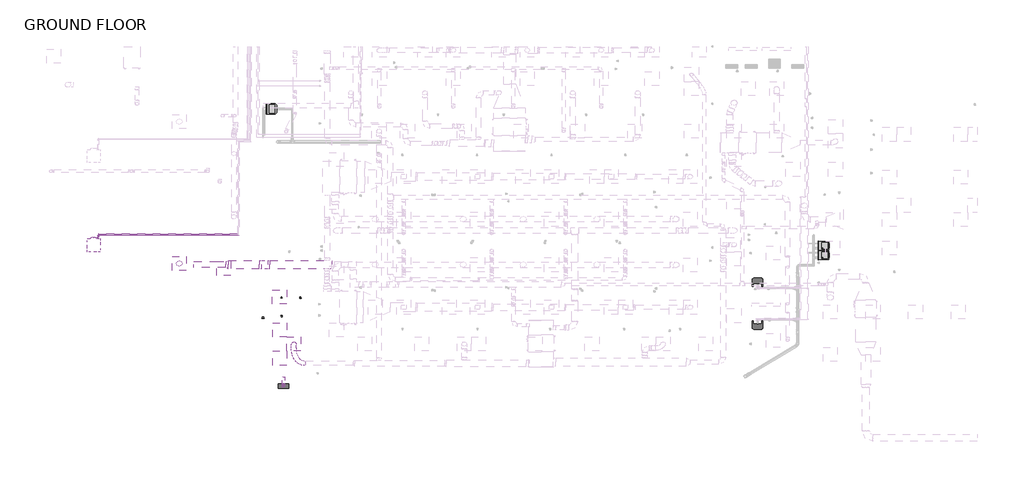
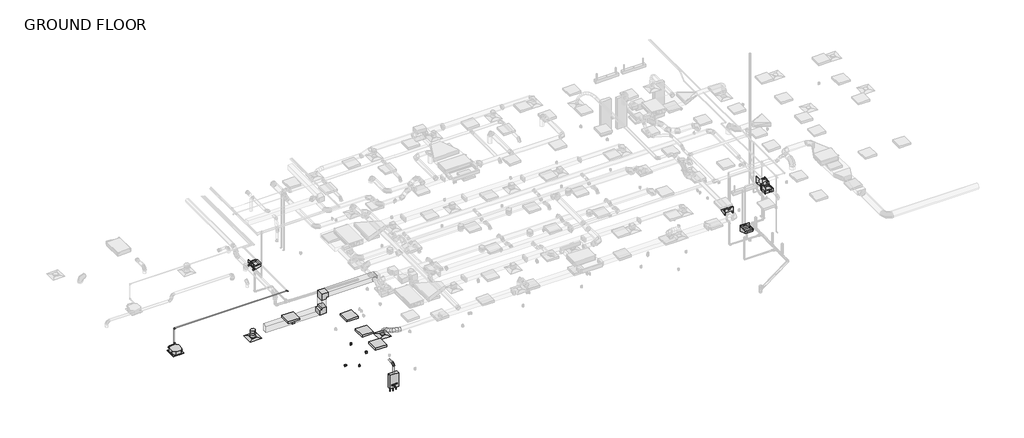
# One storey, part 1 of 21: 9 pipe segments, 8 duct segments, 6 pipe fittings, 6 proxies, 5 duct fittings, 5 flow terminals, 4 light fixtures, 2 air terminals.
"""IFC4 building model written with IfcOpenShell, lengths in millimetres."""

from ifc_helpers import new_model, si_unit, point, frame, frame_2d, origin, place, context, project, spatial, polyline, circle_curve, ellipse_curve, trimmed, segment, composite_curve, outline, extrude, transform, mapped, element, save
from ifc_brep_helpers import plane_surface, cylinder_surface, advanced_brep
from components import air_terminal_a1f6e78c, air_terminal_e9020785, mechanical_equipment_2d84379e, duplex_receptacle_countertop_10251bba, water_heater_tankless_0_6_gallon_c20ab9af, rectangular_elbow_mitered_transition_standard_eba0128a, rectangular_transition_angle_45_degree_15636467, round_elbow_1_d_2e2cf16c, round_takeoff_standard_c386a54e, flow_terminal_3ae34a69, drinking_fountain_handicap_standard_fbed446a, troffer_corner_insert_2x2_3lamp_e67c7f8f, elbow_generic_standard_c06ac706, elbow_generic_standard_a088f956

model = new_model("IFC4")

# Units and contexts
model_context = context("Model", 3, world=origin())
ifc_project = project(units=[si_unit("LENGTHUNIT", "METRE", prefix="MILLI")], contexts=[model_context])

# Site, building, storey
site = spatial("IfcSite", under=ifc_project)
building = spatial("IfcBuilding", under=site)
storey = spatial("IfcBuildingStorey", under=building, Name="GROUND FLOOR", Elevation=30480.0)

# Air terminals
placement = place(None, origin())
air_terminal_shape = air_terminal_a1f6e78c(model_context)
element("IfcAirTerminal", 1, ObjectType="Supply Diffuser - Rectangular Face Round Neck - Hosted : 24\"x24\" Face 10\" Neck - Hosted", at=placement, inside=storey, context=model_context, shape_type="MappedRepresentation", body=[
    mapped(air_terminal_shape, transform((-13605.5079607, -2346.9179995, 32715.2), x_axis=(-1.0, 0.0, 0.0), y_axis=(0.0, 1.0, 0.0), z_axis=(0.0, 0.0, -1.0))),
])
air_terminal_2_shape = air_terminal_e9020785(model_context)
element("IfcAirTerminal", 2, ObjectType="Supply Diffuser - Rectangular Face Round Neck - Hosted : 24\"x24\" Face 8\" Neck - Hosted", at=placement, inside=storey, context=model_context, shape_type="MappedRepresentation", body=[
    mapped(air_terminal_2_shape, transform((-8685.8454607, -5809.2554995, 33223.2), x_axis=(0.0, -1.0, 0.0), y_axis=(-1.0, 0.0, 0.0), z_axis=(0.0, 0.0, -1.0))),
])

# Proxies
mechanical_equipment_shape = mechanical_equipment_2d84379e(model_context)
element("IfcBuildingElementProxy", 3, Name="PLFY-P-NCMU-E_4-way_24x24 : PLFY-P12NCMU-E", ObjectType="PLFY-P-NCMU-E_4-way_24x24 : PLFY-P12NCMU-E", at=placement, inside=storey, context=model_context, shape_type="MappedRepresentation", body=[
    mapped(mechanical_equipment_shape, transform((-17276.6017107, -1632.1077908, 32715.2), x_axis=(1.0, 0.0, 0.0), y_axis=(0.0, -1.0, 0.0), z_axis=(0.0, 0.0, -1.0))),
])
duplex_receptacle_countertop_shape = duplex_receptacle_countertop_10251bba(model_context)
element("IfcBuildingElementProxy", 4, Name="Duplex Receptacle : Countertop", ObjectType="Duplex Receptacle : Countertop", at=placement, inside=storey, context=model_context, shape_type="MappedRepresentation", body=[
    mapped(duplex_receptacle_countertop_shape, transform((-9216.8506869, -3834.4054995, 31699.2), x_axis=(1.0, 0.0, 0.0), y_axis=(0.0, 0.0, 1.0), z_axis=(0.0, -1.0, 0.0))),
])
element("IfcBuildingElementProxy", 5, Name="Duplex Receptacle : Countertop", ObjectType="Duplex Receptacle : Countertop", at=placement, inside=storey, context=model_context, shape_type="MappedRepresentation", body=[
    mapped(duplex_receptacle_countertop_shape, transform((-10013.3077558, -4704.3554995, 31283.4921716), x_axis=(0.0, 0.0, 1.0), y_axis=(-1.0, 0.0, 0.0), z_axis=(0.0, -1.0, 0.0))),
])
element("IfcBuildingElementProxy", 6, Name="Duplex Receptacle : Standard", ObjectType="Duplex Receptacle : Standard", at=placement, inside=storey, context=model_context, shape_type="MappedRepresentation", body=[
    mapped(duplex_receptacle_countertop_shape, transform((-8405.3543873, -3834.4054995, 30937.2), x_axis=(1.0, 0.0, 0.0), y_axis=(0.0, 0.0, 1.0), z_axis=(0.0, -1.0, 0.0))),
])
element("IfcBuildingElementProxy", 7, Name="Duplex Receptacle : Standard", ObjectType="Duplex Receptacle : Standard", at=placement, inside=storey, context=model_context, shape_type="MappedRepresentation", body=[
    mapped(duplex_receptacle_countertop_shape, transform((-9209.1166922, -4580.5304995, 30937.2), x_axis=(-1.0, 0.0, 0.0), y_axis=(0.0, 0.0, 1.0), z_axis=(0.0, 1.0, 0.0))),
])
water_heater_tankless_0_6_gallon_shape = water_heater_tankless_0_6_gallon_c20ab9af(model_context)
element("IfcBuildingElementProxy", 8, Name="Water Heater - Tankless : 0.6 Gallon", ObjectType="Water Heater - Tankless : 0.6 Gallon", at=placement, inside=storey, context=model_context, shape_type="MappedRepresentation", body=[
    mapped(water_heater_tankless_0_6_gallon_shape, transform((-9133.5422488, -7501.5304995, 31553.6777721), x_axis=(1.0, 0.0, 0.0), y_axis=(0.0, 0.0, 1.0), z_axis=(0.0, -1.0, 0.0))),
])

# Duct fittings
rectangular_elbow_mitered_transition_standard_shape = rectangular_elbow_mitered_transition_standard_eba0128a(model_context)
element("IfcDuctFitting", 9, ObjectType="Rectangular Elbow - Mitered - Transition : Standard", at=placement, inside=storey, context=model_context, shape_type="MappedRepresentation", body=[
    mapped(rectangular_elbow_mitered_transition_standard_shape, transform((-9938.144811, -2399.3054995, 33020.0), x_axis=(1.0, 0.0, 0.0), y_axis=(0.0, 0.0, 1.0), z_axis=(0.0, -1.0, 0.0))),
])
element("IfcDuctFitting", 10, ObjectType="Rectangular Elbow - Mitered - Transition : Standard", at=placement, inside=storey, context=model_context, shape_type="MappedRepresentation", body=[
    mapped(rectangular_elbow_mitered_transition_standard_shape, transform((-9938.144811, -2399.3054995, 33909.0), x_axis=(0.0, 0.0, 1.0), y_axis=(1.0, 0.0, 0.0), z_axis=(0.0, 1.0, 0.0))),
])
rectangular_transition_angle_45_degree_shape = rectangular_transition_angle_45_degree_15636467(model_context)
element("IfcDuctFitting", 11, ObjectType="Rectangular Transition - Angle : 45 Degree", at=placement, inside=storey, context=model_context, shape_type="MappedRepresentation", body=[
    mapped(rectangular_transition_angle_45_degree_shape, transform((-11614.544811, -2399.3054995, 33020.0), x_axis=(1.0, 0.0, 0.0), y_axis=(0.0, 1.0, 0.0), z_axis=(0.0, 0.0, 1.0))),
])
round_elbow_1_d_shape = round_elbow_1_d_2e2cf16c(model_context)
element("IfcDuctFitting", 12, ObjectType="Round Elbow : 1 D", at=placement, inside=storey, context=model_context, shape_type="MappedRepresentation", body=[
    mapped(round_elbow_1_d_shape, transform((-9133.5422488, -7615.8304995, 32839.0961523), x_axis=(0.0, -1.0, 0.0), y_axis=(0.0, 0.0, -1.0), z_axis=(1.0, 0.0, 0.0))),
])
round_takeoff_standard_shape = round_takeoff_standard_c386a54e(model_context)
element("IfcDuctFitting", 13, ObjectType="Round Takeoff : Standard", at=placement, inside=storey, context=model_context, shape_type="MappedRepresentation", body=[
    mapped(round_takeoff_standard_shape, transform((-13605.5079607, -2346.9179995, 32998.9347748), x_axis=(0.0, 0.0, -1.0), y_axis=(1.0, 0.0, 0.0), z_axis=(0.0, -1.0, 0.0))),
])

# Duct segments
element("IfcDuctSegment", 14, ObjectType="Flex - Round", at=placement, inside=storey, context=model_context, shape_type="AdvancedBrep", body=[
    advanced_brep(
    [(-8198.0792966, -6736.8850038, 33877.25), (-8198.0792966, -6635.2850038, 33775.65), (-8198.0792966, -6533.6850038, 33877.25), (-8198.0792966, -6635.2850038, 33978.85), (-8218.4985021, -6736.8850038, 33877.25), (-8209.2197661, -6635.2850038, 33775.65), (-8203.7506501, -6533.6850038, 33877.25), (-8213.0293861, -6635.2850038, 33978.85), (-8780.4464452, -5846.3123979, 33277.175), (-8722.9023592, -5714.6545149, 33277.175), (-8591.2444762, -5772.198601, 33277.175), (-8648.7885622, -5903.856484, 33277.175), (-8339.1813775, -6719.2681674, 33872.6992727), (-8305.7046683, -6621.2004973, 33772.0117333), (-8286.7257752, -6521.5726042, 33874.121162), (-8320.2024844, -6619.6402743, 33974.8087013), (-8470.9946788, -6667.3379246, 33857.9603557), (-8407.576349, -6581.0662995, 33760.620787), (-8373.445886, -6487.4076424, 33864.4244129), (-8436.8642158, -6573.6792675, 33961.7639816), (-8586.4194049, -6583.3695154, 33831.5875842), (-8494.3723968, -6517.9244901, 33740.7892274), (-8447.4747299, -6433.5536332, 33847.5099626), (-8539.5217381, -6498.9986586, 33938.3083194), (-8672.9590499, -6473.1112187, 33793.1745119), (-8559.9397444, -6434.3865455, 33711.6853032), (-8505.3268469, -6359.8454977, 33821.8306621), (-8618.3461523, -6398.570171, 33903.3198707), (-8729.5028063, -6349.7598134, 33744.3839657), (-8605.1998762, -6335.6506069, 33672.6311849), (-8548.0458512, -6266.6530828, 33784.969235), (-8672.3487813, -6280.7622894, 33856.7220158), (-8763.1059458, -6224.3988891, 33686.2556065), (-8633.5596559, -6229.8507249, 33623.5730468), (-8576.5078643, -6160.4718052, 33735.7342483), (-8706.0541542, -6155.0199695, 33798.4168081), (-8780.2289374, -6105.1031652, 33618.9182516), (-8648.4220926, -6126.3042664, 33565.1254814), (-8592.2442877, -6050.8362895, 33673.8496695), (-8724.0511326, -6029.6351883, 33727.6424397), (-8786.0904012, -6000.0543024, 33542.8019622), (-8653.5396732, -6034.5872396, 33498.6691717), (-8598.028372, -5947.1742189, 33598.7382218), (-8730.5790999, -5912.6412817, 33642.8710123), (-8785.3303968, -5917.6725877, 33459.215254), (-8652.8864253, -5963.7775382, 33426.8237401), (-8597.211928, -5858.6746506, 33508.9441744), (-8729.6558995, -5812.5697001, 33541.3356883), (-8782.2172351, -5864.8720883, 33369.7155214), (-8650.2671566, -5919.3536663, 33351.5228491), (-8593.5185156, -5796.0328612, 33402.7629174), (-8725.4685941, -5741.5512832, 33420.9555897), (-8780.4464452, -5846.3123979, 33291.2670205), (-8648.7885622, -5903.856484, 33286.0190236), (-8591.2444762, -5772.198601, 33302.0197505), (-8722.9023592, -5714.6545149, 33307.2677474)],
    [
        (0, 1, circle_curve(frame((-8198.0792966, -6635.2850038, 33877.25), z_axis=(1.0, 0.0, 0.0), x_axis=(0.0, -1.0, 0.0)), 101.6)),
        (1, 2, circle_curve(frame((-8198.0792966, -6635.2850038, 33877.25), z_axis=(1.0, 0.0, 0.0), x_axis=(0.0, -1.0, 0.0)), 101.6)),
        (2, 3, circle_curve(frame((-8198.0792966, -6635.2850038, 33877.25), z_axis=(1.0, 0.0, 0.0), x_axis=(0.0, -1.0, 0.0)), 101.6)),
        (3, 0, circle_curve(frame((-8198.0792966, -6635.2850038, 33877.25), z_axis=(1.0, 0.0, 0.0), x_axis=(0.0, -1.0, 0.0)), 101.6)),
        (0, 4),
        (4, 5, ellipse_curve(frame((-8211.1245761, -6635.2850038, 33877.25), z_axis=(0.9972022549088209, -0.07237495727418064, 0.01869567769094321), x_axis=(0.07475067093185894, 0.9655093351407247, -0.24940741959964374)), 101.8850484, 101.6)),
        (5, 1),
        (5, 6, ellipse_curve(frame((-8211.1245761, -6635.2850038, 33877.25), z_axis=(0.9972022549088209, -0.07237495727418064, 0.01869567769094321), x_axis=(0.07475067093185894, 0.9655093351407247, -0.24940741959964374)), 101.8850484, 101.6)),
        (6, 2),
        (6, 7, ellipse_curve(frame((-8211.1245761, -6635.2850038, 33877.25), z_axis=(0.9972022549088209, -0.07237495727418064, 0.01869567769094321), x_axis=(0.07475067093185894, 0.9655093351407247, -0.24940741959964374)), 101.8850484, 101.6)),
        (7, 3),
        (7, 4, ellipse_curve(frame((-8211.1245761, -6635.2850038, 33877.25), z_axis=(0.9972022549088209, -0.07237495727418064, 0.01869567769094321), x_axis=(0.07475067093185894, 0.9655093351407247, -0.24940741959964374)), 101.8850484, 101.6)),
        (8, 9, circle_curve(frame((-8685.8454607, -5809.2554995, 33277.175), z_axis=(0.0, 0.0, -1.0), x_axis=(-0.9311120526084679, -0.3647332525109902, 0.0)), 101.6)),
        (9, 10, circle_curve(frame((-8685.8454607, -5809.2554995, 33277.175), z_axis=(0.0, 0.0, -1.0), x_axis=(-0.9311120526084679, -0.3647332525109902, 0.0)), 101.6)),
        (10, 11, circle_curve(frame((-8685.8454607, -5809.2554995, 33277.175), z_axis=(0.0, 0.0, -1.0), x_axis=(-0.9311120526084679, -0.3647332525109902, 0.0)), 101.6)),
        (11, 8, circle_curve(frame((-8685.8454607, -5809.2554995, 33277.175), z_axis=(0.0, 0.0, -1.0), x_axis=(-0.9311120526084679, -0.3647332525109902, 0.0)), 101.6)),
        (4, 12),
        (12, 13, ellipse_curve(frame((-8312.9535763, -6620.4203858, 33873.4102173), z_axis=(0.9639965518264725, -0.25629211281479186, 0.07088724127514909), x_axis=(0.26585434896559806, 0.9232205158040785, -0.2774623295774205)), 102.330517, 101.6)),
        (13, 5),
        (13, 14, ellipse_curve(frame((-8312.9535763, -6620.4203858, 33873.4102173), z_axis=(0.9639965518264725, -0.25629211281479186, 0.07088724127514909), x_axis=(0.26585434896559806, 0.9232205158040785, -0.2774623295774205)), 102.330517, 101.6)),
        (14, 6),
        (14, 15, ellipse_curve(frame((-8312.9535763, -6620.4203858, 33873.4102173), z_axis=(0.9639965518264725, -0.25629211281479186, 0.07088724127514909), x_axis=(0.26585434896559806, 0.9232205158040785, -0.2774623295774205)), 102.330517, 101.6)),
        (15, 7),
        (15, 12, ellipse_curve(frame((-8312.9535763, -6620.4203858, 33873.4102173), z_axis=(0.9639965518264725, -0.25629211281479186, 0.07088724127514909), x_axis=(0.26585434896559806, 0.9232205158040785, -0.2774623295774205)), 102.330517, 101.6)),
        (12, 16),
        (16, 17, ellipse_curve(frame((-8422.2202824, -6577.3727835, 33861.1923843), z_axis=(0.8678005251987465, -0.4756430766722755, 0.14382597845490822), x_axis=(0.4963065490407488, 0.8153501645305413, -0.29813406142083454)), 102.4855472, 101.6)),
        (17, 13),
        (17, 18, ellipse_curve(frame((-8422.2202824, -6577.3727835, 33861.1923843), z_axis=(0.8678005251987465, -0.4756430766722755, 0.14382597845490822), x_axis=(0.4963065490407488, 0.8153501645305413, -0.29813406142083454)), 102.4855472, 101.6)),
        (18, 14),
        (18, 19, ellipse_curve(frame((-8422.2202824, -6577.3727835, 33861.1923843), z_axis=(0.8678005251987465, -0.4756430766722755, 0.14382597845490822), x_axis=(0.4963065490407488, 0.8153501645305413, -0.29813406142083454)), 102.4855472, 101.6)),
        (19, 15),
        (19, 16, ellipse_curve(frame((-8422.2202824, -6577.3727835, 33861.1923843), z_axis=(0.8678005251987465, -0.4756430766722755, 0.14382597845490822), x_axis=(0.4963065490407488, 0.8153501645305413, -0.29813406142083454)), 102.4855472, 101.6)),
        (16, 20),
        (20, 21, ellipse_curve(frame((-8516.9470674, -6508.4615743, 33839.5487734), z_axis=(0.702315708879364, -0.6752916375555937, 0.2252417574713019), x_axis=(0.7098106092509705, 0.6402843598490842, -0.2936066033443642)), 102.6208376, 101.6)),
        (21, 17),
        (21, 22, ellipse_curve(frame((-8516.9470674, -6508.4615743, 33839.5487734), z_axis=(0.702315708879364, -0.6752916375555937, 0.2252417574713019), x_axis=(0.7098106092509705, 0.6402843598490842, -0.2936066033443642)), 102.6208376, 101.6)),
        (22, 18),
        (22, 23, ellipse_curve(frame((-8516.9470674, -6508.4615743, 33839.5487734), z_axis=(0.702315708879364, -0.6752916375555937, 0.2252417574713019), x_axis=(0.7098106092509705, 0.6402843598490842, -0.2936066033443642)), 102.6208376, 101.6)),
        (23, 19),
        (23, 20, ellipse_curve(frame((-8516.9470674, -6508.4615743, 33839.5487734), z_axis=(0.702315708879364, -0.6752916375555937, 0.2252417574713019), x_axis=(0.7098106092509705, 0.6402843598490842, -0.2936066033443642)), 102.6208376, 101.6)),
        (20, 24),
        (24, 25, ellipse_curve(frame((-8589.1429484, -6416.4783582, 33807.502587), z_axis=(0.497296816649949, -0.8127730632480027, 0.3034729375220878), x_axis=(0.857785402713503, 0.4082076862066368, -0.31236307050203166)), 102.3212376, 101.6)),
        (25, 21),
        (25, 26, ellipse_curve(frame((-8589.1429484, -6416.4783582, 33807.502587), z_axis=(0.497296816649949, -0.8127730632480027, 0.3034729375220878), x_axis=(0.857785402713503, 0.4082076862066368, -0.31236307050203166)), 102.3212376, 101.6)),
        (26, 22),
        (26, 27, ellipse_curve(frame((-8589.1429484, -6416.4783582, 33807.502587), z_axis=(0.497296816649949, -0.8127730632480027, 0.3034729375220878), x_axis=(0.857785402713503, 0.4082076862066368, -0.31236307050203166)), 102.3212376, 101.6)),
        (27, 23),
        (27, 24, ellipse_curve(frame((-8589.1429484, -6416.4783582, 33807.502587), z_axis=(0.497296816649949, -0.8127730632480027, 0.3034729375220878), x_axis=(0.857785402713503, 0.4082076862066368, -0.31236307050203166)), 102.3212376, 101.6)),
        (24, 28),
        (28, 29, ellipse_curve(frame((-8638.7743288, -6308.2064481, 33764.6766004), z_axis=(0.3153905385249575, -0.8717420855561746, 0.37495939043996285), x_axis=(0.9008898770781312, 0.15088375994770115, -0.40697852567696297)), 101.9821261, 101.6)),
        (29, 25),
        (29, 30, ellipse_curve(frame((-8638.7743288, -6308.2064481, 33764.6766004), z_axis=(0.3153905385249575, -0.8717420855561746, 0.37495939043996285), x_axis=(0.9008898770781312, 0.15088375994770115, -0.40697852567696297)), 101.9821261, 101.6)),
        (30, 26),
        (30, 31, ellipse_curve(frame((-8638.7743288, -6308.2064481, 33764.6766004), z_axis=(0.3153905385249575, -0.8717420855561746, 0.37495939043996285), x_axis=(0.9008898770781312, 0.15088375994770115, -0.40697852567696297)), 101.9821261, 101.6)),
        (31, 27),
        (31, 28, ellipse_curve(frame((-8638.7743288, -6308.2064481, 33764.6766004), z_axis=(0.3153905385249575, -0.8717420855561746, 0.37495939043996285), x_axis=(0.9008898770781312, 0.15088375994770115, -0.40697852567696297)), 101.9821261, 101.6)),
        (28, 32),
        (32, 33, ellipse_curve(frame((-8669.8069051, -6192.4353472, 33710.9949274), z_axis=(0.18059511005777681, -0.8749201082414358, 0.44933307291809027), x_axis=(0.8112873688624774, -0.12576767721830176, -0.570959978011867)), 101.8440562, 101.6)),
        (33, 29),
        (33, 34, ellipse_curve(frame((-8669.8069051, -6192.4353472, 33710.9949274), z_axis=(0.18059511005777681, -0.8749201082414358, 0.44933307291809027), x_axis=(0.8112873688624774, -0.12576767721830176, -0.570959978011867)), 101.8440562, 101.6)),
        (34, 30),
        (34, 35, ellipse_curve(frame((-8669.8069051, -6192.4353472, 33710.9949274), z_axis=(0.18059511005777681, -0.8749201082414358, 0.44933307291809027), x_axis=(0.8112873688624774, -0.12576767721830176, -0.570959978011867)), 101.8440562, 101.6)),
        (35, 31),
        (35, 32, ellipse_curve(frame((-8669.8069051, -6192.4353472, 33710.9949274), z_axis=(0.18059511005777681, -0.8749201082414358, 0.44933307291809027), x_axis=(0.8112873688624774, -0.12576767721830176, -0.570959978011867)), 101.8440562, 101.6)),
        (32, 36),
        (36, 37, ellipse_curve(frame((-8686.2366126, -6077.9697273, 33646.3839605), z_axis=(0.08478508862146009, -0.8385227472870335, 0.5382295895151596), x_axis=(0.5731333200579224, -0.4008265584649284, -0.7147420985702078)), 101.8415032, 101.6)),
        (37, 33),
        (37, 38, ellipse_curve(frame((-8686.2366126, -6077.9697273, 33646.3839605), z_axis=(0.08478508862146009, -0.8385227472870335, 0.5382295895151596), x_axis=(0.5731333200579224, -0.4008265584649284, -0.7147420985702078)), 101.8415032, 101.6)),
        (38, 34),
        (38, 39, ellipse_curve(frame((-8686.2366126, -6077.9697273, 33646.3839605), z_axis=(0.08478508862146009, -0.8385227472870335, 0.5382295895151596), x_axis=(0.5731333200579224, -0.4008265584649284, -0.7147420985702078)), 101.8415032, 101.6)),
        (39, 35),
        (39, 36, ellipse_curve(frame((-8686.2366126, -6077.9697273, 33646.3839605), z_axis=(0.08478508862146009, -0.8385227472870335, 0.5382295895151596), x_axis=(0.5731333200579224, -0.4008265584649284, -0.7147420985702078)), 101.8415032, 101.6)),
        (36, 40),
        (40, 41, ellipse_curve(frame((-8692.0593866, -5973.6142607, 33570.770092), z_axis=(0.019403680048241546, -0.7582927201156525, 0.6516253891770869), x_axis=(0.2979591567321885, -0.6177476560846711, -0.7277418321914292)), 101.9832289, 101.6)),
        (41, 37),
        (41, 42, ellipse_curve(frame((-8692.0593866, -5973.6142607, 33570.770092), z_axis=(0.019403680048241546, -0.7582927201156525, 0.6516253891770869), x_axis=(0.2979591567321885, -0.6177476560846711, -0.7277418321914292)), 101.9832289, 101.6)),
        (42, 38),
        (42, 43, ellipse_curve(frame((-8692.0593866, -5973.6142607, 33570.770092), z_axis=(0.019403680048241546, -0.7582927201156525, 0.6516253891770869), x_axis=(0.2979591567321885, -0.6177476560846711, -0.7277418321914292)), 101.9832289, 101.6)),
        (43, 39),
        (43, 40, ellipse_curve(frame((-8692.0593866, -5973.6142607, 33570.770092), z_axis=(0.019403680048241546, -0.7582927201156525, 0.6516253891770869), x_axis=(0.2979591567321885, -0.6177476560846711, -0.7277418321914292)), 101.9832289, 101.6)),
        (40, 44),
        (44, 45, ellipse_curve(frame((-8691.2711624, -5888.1736191, 33484.0797142), z_axis=(-0.01834951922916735, -0.6095278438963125, 0.7925522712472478), x_axis=(0.09556421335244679, -0.7901257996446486, -0.6054491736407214)), 102.3747884, 101.6)),
        (45, 41),
        (45, 46, ellipse_curve(frame((-8691.2711624, -5888.1736191, 33484.0797142), z_axis=(-0.01834951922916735, -0.6095278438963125, 0.7925522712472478), x_axis=(0.09556421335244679, -0.7901257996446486, -0.6054491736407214)), 102.3747884, 101.6)),
        (46, 42),
        (46, 47, ellipse_curve(frame((-8691.2711624, -5888.1736191, 33484.0797142), z_axis=(-0.01834951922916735, -0.6095278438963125, 0.7925522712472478), x_axis=(0.09556421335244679, -0.7901257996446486, -0.6054491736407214)), 102.3747884, 101.6)),
        (47, 43),
        (47, 44, ellipse_curve(frame((-8691.2711624, -5888.1736191, 33484.0797142), z_axis=(-0.01834951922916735, -0.6095278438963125, 0.7925522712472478), x_axis=(0.09556421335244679, -0.7901257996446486, -0.6054491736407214)), 102.3747884, 101.6)),
        (44, 48),
        (48, 49, ellipse_curve(frame((-8687.8678753, -5830.4524747, 33386.2392194), z_axis=(-0.02624939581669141, -0.3732420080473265, 0.9273625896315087), x_axis=(-0.0266548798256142, -0.9270910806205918, -0.37388720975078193)), 102.7591668, 101.6)),
        (49, 45),
        (49, 50, ellipse_curve(frame((-8687.8678753, -5830.4524747, 33386.2392194), z_axis=(-0.02624939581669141, -0.3732420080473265, 0.9273625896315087), x_axis=(-0.0266548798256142, -0.9270910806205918, -0.37388720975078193)), 102.7591668, 101.6)),
        (50, 46),
        (50, 51, ellipse_curve(frame((-8687.8678753, -5830.4524747, 33386.2392194), z_axis=(-0.02624939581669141, -0.3732420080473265, 0.9273625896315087), x_axis=(-0.0266548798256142, -0.9270910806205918, -0.37388720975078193)), 102.7591668, 101.6)),
        (51, 47),
        (51, 48, ellipse_curve(frame((-8687.8678753, -5830.4524747, 33386.2392194), z_axis=(-0.02624939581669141, -0.3732420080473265, 0.9273625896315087), x_axis=(-0.0266548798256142, -0.9270910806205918, -0.37388720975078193)), 102.7591668, 101.6)),
        (48, 52),
        (52, 53, ellipse_curve(frame((-8685.8454607, -5809.2554995, 33296.6433855), z_axis=(-0.011055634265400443, -0.11587436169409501, 0.9932023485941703), x_axis=(-0.09433356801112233, -0.9887123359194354, -0.11640057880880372)), 102.2953683, 101.6)),
        (53, 49),
        (53, 54, ellipse_curve(frame((-8685.8454607, -5809.2554995, 33296.6433855), z_axis=(-0.011055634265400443, -0.11587436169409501, 0.9932023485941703), x_axis=(-0.09433356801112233, -0.9887123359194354, -0.11640057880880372)), 102.2953683, 101.6)),
        (54, 50),
        (54, 55, ellipse_curve(frame((-8685.8454607, -5809.2554995, 33296.6433855), z_axis=(-0.011055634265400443, -0.11587436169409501, 0.9932023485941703), x_axis=(-0.09433356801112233, -0.9887123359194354, -0.11640057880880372)), 102.2953683, 101.6)),
        (55, 51),
        (55, 52, ellipse_curve(frame((-8685.8454607, -5809.2554995, 33296.6433855), z_axis=(-0.011055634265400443, -0.11587436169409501, 0.9932023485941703), x_axis=(-0.09433356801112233, -0.9887123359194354, -0.11640057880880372)), 102.2953683, 101.6)),
        (52, 8),
        (11, 53),
        (10, 54),
        (9, 55),
    ],
    [
        plane_surface(frame((-8198.0792966, -6635.2850038, 33775.65), z_axis=(1.0, 0.0, 0.0), x_axis=(0.0, -1.0, 0.0))),
        cylinder_surface(frame((-8198.0792966, -6635.2850038, 33877.25), z_axis=(1.0, 0.0, 0.0), x_axis=(0.0, -1.0, 0.0)), 101.6),
        plane_surface(frame((-8685.8454607, -5910.8554995, 33277.175), z_axis=(0.0, 0.0, -1.0), x_axis=(-1.0, 0.0, 0.0))),
        cylinder_surface(frame((-8211.1245761, -6635.2850038, 33877.25), z_axis=(0.9888246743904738, -0.144344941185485, 0.03728674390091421), x_axis=(-0.144344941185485, -0.9895237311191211, -0.0027061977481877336)), 101.6),
        cylinder_surface(frame((-8312.9535763, -6620.4203858, 33873.4102173), z_axis=(0.9254048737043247, -0.36458004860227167, 0.10347563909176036), x_axis=(-0.3646514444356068, -0.9309521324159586, -0.01890638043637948)), 101.6),
        cylinder_surface(frame((-8422.2202824, -6577.3727835, 33861.1923843), z_axis=(0.7951993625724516, -0.5784863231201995, 0.18169080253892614), x_axis=(-0.5792359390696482, -0.8133379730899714, -0.05447080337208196)), 101.6),
        cylinder_surface(frame((-8516.9470674, -6508.4615743, 33839.5487734), z_axis=(0.5954592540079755, -0.7586618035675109, 0.264311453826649), x_axis=(-0.762069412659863, -0.6375396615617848, -0.11310786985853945)), 101.6),
        cylinder_surface(frame((-8589.1429484, -6416.4783582, 33807.502587), z_axis=(0.3921237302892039, -0.8554262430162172, 0.33835620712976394), x_axis=(-0.8663776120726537, -0.46706019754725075, -0.17676143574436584)), 101.6),
        cylinder_surface(frame((-8638.7743288, -6308.2064481, 33764.6766004), z_axis=(0.23629381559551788, -0.8815251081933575, 0.4087526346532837), x_axis=(-0.9090375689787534, -0.34914771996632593, -0.2274787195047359)), 101.6),
        cylinder_surface(frame((-8669.8069051, -6192.4353472, 33710.9949274), z_axis=(0.12403085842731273, -0.8641218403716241, 0.4877599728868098), x_axis=(-0.9231582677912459, -0.28073787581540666, -0.26261199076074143)), 101.6),
        cylinder_surface(frame((-8686.2366126, -6077.9697273, 33646.3839605), z_axis=(0.04513720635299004, -0.8089467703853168, 0.58614653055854), x_axis=(-0.9258356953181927, -0.254258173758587, -0.2796087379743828)), 101.6),
        cylinder_surface(frame((-8692.0593866, -5973.6142607, 33570.770092), z_axis=(-0.006475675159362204, -0.7019396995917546, 0.7122069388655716), x_axis=(-0.9255499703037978, -0.265424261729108, -0.2700133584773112)), 101.6),
        cylinder_surface(frame((-8691.2711624, -5888.1736191, 33484.0797142), z_axis=(-0.029945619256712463, -0.5078899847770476, 0.8609012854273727), x_axis=(-0.9268429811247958, -0.3083750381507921, -0.21416564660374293)), 101.6),
        cylinder_surface(frame((-8687.8678753, -5830.4524747, 33386.2392194), z_axis=(-0.02196096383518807, -0.2301733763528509, 0.9729018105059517), x_axis=(-0.9299499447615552, -0.3525531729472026, -0.10440000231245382)), 101.6),
        cylinder_surface(frame((-8685.8454607, -5809.2554995, 33296.6433855), z_axis=(0.0, 0.0, 0.9999999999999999), x_axis=(-0.9311120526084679, -0.3647332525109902, 0.0)), 101.6),
    ],
    [
        (0, [[1, 2, 3, 4]]),
        (1, [[-1, 5, 6, 7]]),
        (1, [[-2, -7, 8, 9]]),
        (1, [[-3, -9, 10, 11]]),
        (1, [[-4, -11, 12, -5]]),
        (2, [[13, 14, 15, 16]]),
        (3, [[-6, 17, 18, 19]]),
        (3, [[-8, -19, 20, 21]]),
        (3, [[-10, -21, 22, 23]]),
        (3, [[-12, -23, 24, -17]]),
        (4, [[-18, 25, 26, 27]]),
        (4, [[-20, -27, 28, 29]]),
        (4, [[-22, -29, 30, 31]]),
        (4, [[-24, -31, 32, -25]]),
        (5, [[-26, 33, 34, 35]]),
        (5, [[-28, -35, 36, 37]]),
        (5, [[-30, -37, 38, 39]]),
        (5, [[-32, -39, 40, -33]]),
        (6, [[-34, 41, 42, 43]]),
        (6, [[-36, -43, 44, 45]]),
        (6, [[-38, -45, 46, 47]]),
        (6, [[-40, -47, 48, -41]]),
        (7, [[-42, 49, 50, 51]]),
        (7, [[-44, -51, 52, 53]]),
        (7, [[-46, -53, 54, 55]]),
        (7, [[-48, -55, 56, -49]]),
        (8, [[-50, 57, 58, 59]]),
        (8, [[-52, -59, 60, 61]]),
        (8, [[-54, -61, 62, 63]]),
        (8, [[-56, -63, 64, -57]]),
        (9, [[-58, 65, 66, 67]]),
        (9, [[-60, -67, 68, 69]]),
        (9, [[-62, -69, 70, 71]]),
        (9, [[-64, -71, 72, -65]]),
        (10, [[-66, 73, 74, 75]]),
        (10, [[-68, -75, 76, 77]]),
        (10, [[-70, -77, 78, 79]]),
        (10, [[-72, -79, 80, -73]]),
        (11, [[-74, 81, 82, 83]]),
        (11, [[-76, -83, 84, 85]]),
        (11, [[-78, -85, 86, 87]]),
        (11, [[-80, -87, 88, -81]]),
        (12, [[-82, 89, 90, 91]]),
        (12, [[-84, -91, 92, 93]]),
        (12, [[-86, -93, 94, 95]]),
        (12, [[-88, -95, 96, -89]]),
        (13, [[-90, 97, 98, 99]]),
        (13, [[-92, -99, 100, 101]]),
        (13, [[-94, -101, 102, 103]]),
        (13, [[-96, -103, 104, -97]]),
        (14, [[-98, 105, -16, 106]]),
        (14, [[-100, -106, -15, 107]]),
        (14, [[-102, -107, -14, 108]]),
        (14, [[-104, -108, -13, -105]]),
    ],
),
])
element("IfcDuctSegment", 15, ObjectType="Mitered Elbows / Taps", at=placement, inside=storey, context=model_context, shape_type="SweptSolid", body=[
    extrude(outline(polyline([(-12986.144811, -2526.3054995), (-12986.144811, -2272.3054995), (-11614.544811, -2272.3054995), (-11614.544811, -2526.3054995), (-12986.144811, -2526.3054995)])), frame((0.0, 0.0, 32842.2), z_axis=(0.0, 0.0, 1.0), x_axis=(1.0, 0.0, 0.0)), (0.0, 0.0, 1.0), 355.6),
])
element("IfcDuctSegment", 16, ObjectType="Mitered Elbows / Taps", at=placement, inside=storey, context=model_context, shape_type="SweptSolid", body=[
    extrude(outline(polyline([(-11491.902762, -2577.1054995), (-11491.902762, -2221.5054995), (-10166.744811, -2221.5054995), (-10166.744811, -2577.1054995), (-11491.902762, -2577.1054995)])), frame((0.0, 0.0, 32893.0), z_axis=(0.0, 0.0, 1.0), x_axis=(1.0, 0.0, 0.0)), (0.0, 0.0, 1.0), 254.0),
])
element("IfcDuctSegment", 17, ObjectType="Mitered Elbows / Taps", at=placement, inside=storey, context=model_context, shape_type="SweptSolid", body=[
    extrude(outline(polyline([(-9811.144811, -2221.5054995), (-9811.144811, -2577.1054995), (-10065.144811, -2577.1054995), (-10065.144811, -2221.5054995), (-9811.144811, -2221.5054995)])), frame((0.0, 0.0, 33248.6), z_axis=(0.0, 0.0, 1.0), x_axis=(1.0, 0.0, 0.0)), (0.0, 0.0, 1.0), 431.8),
])
element("IfcDuctSegment", 18, ObjectType="Mitered Elbows / Taps", at=placement, inside=storey, context=model_context, shape_type="SweptSolid", body=[
    extrude(outline(polyline([(-9709.544811, -2577.1054995), (-9709.544811, -2221.5054995), (-7067.944811, -2221.5054995), (-7067.944811, -2577.1054995), (-9709.544811, -2577.1054995)])), frame((0.0, 0.0, 33782.0), z_axis=(0.0, 0.0, 1.0), x_axis=(1.0, 0.0, 0.0)), (0.0, 0.0, 1.0), 254.0),
])
element("IfcDuctSegment", 19, ObjectType="Taps / Short Radius", at=placement, inside=storey, context=model_context, shape_type="SweptSolid", body=[
    extrude(outline(composite_curve([segment(trimmed(circle_curve(frame_2d((-13605.5079607, -2346.9179995)), 127.0), [point((-13478.5079607, -2346.9179995))], [point((-13605.5079607, -2473.9179995))], False, "CARTESIAN"), True, "CONTINUOUS"), segment(trimmed(circle_curve(frame_2d((-13605.5079607, -2346.9179995)), 127.0), [point((-13605.5079607, -2473.9179995))], [point((-13732.5079607, -2346.9179995))], False, "CARTESIAN"), True, "CONTINUOUS"), segment(trimmed(circle_curve(frame_2d((-13605.5079607, -2346.9179995)), 127.0), [point((-13732.5079607, -2346.9179995))], [point((-13605.5079607, -2219.9179995))], False, "CARTESIAN"), True, "CONTINUOUS"), segment(trimmed(circle_curve(frame_2d((-13605.5079607, -2346.9179995)), 127.0), [point((-13605.5079607, -2219.9179995))], [point((-13478.5079607, -2346.9179995))], False, "CARTESIAN"), True, "CONTINUOUS")], self_intersect=False)), frame((0.0, 0.0, 32769.175), z_axis=(0.0, 0.0, 1.0), x_axis=(1.0, 0.0, 0.0)), (0.0, 0.0, 1.0), 128.1597748),
])
element("IfcDuctSegment", 20, ObjectType="Taps / Short Radius", at=placement, inside=storey, context=model_context, shape_type="SweptSolid", body=[
    extrude(outline(composite_curve([segment(trimmed(circle_curve(frame_2d((32839.0961523, -9133.5422488)), 50.8), [point((32839.0961523, -9082.7422488))], [point((32889.8961523, -9133.5422488))], False, "CARTESIAN"), True, "CONTINUOUS"), segment(trimmed(circle_curve(frame_2d((32839.0961523, -9133.5422488)), 50.8), [point((32889.8961523, -9133.5422488))], [point((32839.0961523, -9184.3422488))], False, "CARTESIAN"), True, "CONTINUOUS"), segment(trimmed(circle_curve(frame_2d((32839.0961523, -9133.5422488)), 50.8), [point((32839.0961523, -9184.3422488))], [point((32788.2961523, -9133.5422488))], False, "CARTESIAN"), True, "CONTINUOUS"), segment(trimmed(circle_curve(frame_2d((32839.0961523, -9133.5422488)), 50.8), [point((32788.2961523, -9133.5422488))], [point((32839.0961523, -9082.7422488))], False, "CARTESIAN"), True, "CONTINUOUS")], self_intersect=False)), frame((0.0, -7514.2304995, 0.0), z_axis=(0.0, 1.0, 0.0), x_axis=(0.0, 0.0, 1.0)), (0.0, 0.0, 1.0), 304.8),
])
element("IfcDuctSegment", 21, ObjectType="Taps / Short Radius", at=placement, inside=storey, context=model_context, shape_type="SweptSolid", body=[
    extrude(outline(composite_curve([segment(trimmed(circle_curve(frame_2d((-9133.5422488, -7615.8304995)), 50.8), [point((-9184.3422488, -7615.8304995))], [point((-9133.5422488, -7565.0304995))], False, "CARTESIAN"), True, "CONTINUOUS"), segment(trimmed(circle_curve(frame_2d((-9133.5422488, -7615.8304995)), 50.8), [point((-9133.5422488, -7565.0304995))], [point((-9082.7422488, -7615.8304995))], False, "CARTESIAN"), True, "CONTINUOUS"), segment(trimmed(circle_curve(frame_2d((-9133.5422488, -7615.8304995)), 50.8), [point((-9082.7422488, -7615.8304995))], [point((-9133.5422488, -7666.6304995))], False, "CARTESIAN"), True, "CONTINUOUS"), segment(trimmed(circle_curve(frame_2d((-9133.5422488, -7615.8304995)), 50.8), [point((-9133.5422488, -7666.6304995))], [point((-9184.3422488, -7615.8304995))], False, "CARTESIAN"), True, "CONTINUOUS")], self_intersect=False)), frame((0.0, 0.0, 32315.6777721), z_axis=(0.0, 0.0, 1.0), x_axis=(1.0, 0.0, 0.0)), (0.0, 0.0, 1.0), 421.8183802),
])

# Flow terminals
flow_terminal_shape = flow_terminal_3ae34a69(model_context)
element("IfcFlowTerminal", 22, ObjectType="Lavatory_Commercial-Willoughby-ES-1015-HC : Lavatory_Commercial-Willoughby-ES-1015-HC", at=placement, inside=storey, context=model_context, shape_type="MappedRepresentation", body=[
    mapped(flow_terminal_shape, transform((11224.5795393, -3342.2804995, 31699.2), x_axis=(-1.0, 0.0, 0.0), y_axis=(0.0, 0.0, 1.0), z_axis=(0.0, 1.0, 0.0))),
])
element("IfcFlowTerminal", 23, ObjectType="Lavatory_Commercial-Willoughby-ES-1015-HC : Lavatory_Commercial-Willoughby-ES-1015-HC", at=placement, inside=storey, context=model_context, shape_type="MappedRepresentation", body=[
    mapped(flow_terminal_shape, transform((11224.5795393, -4809.1304995, 31699.2), x_axis=(1.0, 0.0, 0.0), y_axis=(0.0, 0.0, 1.0), z_axis=(0.0, -1.0, 0.0))),
])
element("IfcFlowTerminal", 24, ObjectType="Lavatory_Commercial-Willoughby-ES-1015-HC : Lavatory_Commercial-Willoughby-ES-1015-HC", at=placement, inside=storey, context=model_context, shape_type="MappedRepresentation", body=[
    mapped(flow_terminal_shape, transform((-9879.6454607, 4296.7695005, 31394.4), x_axis=(0.0, 1.0, 0.0), y_axis=(0.0, 0.0, 1.0), z_axis=(1.0, 0.0, 0.0))),
])
drinking_fountain_handicap_standard_shape = drinking_fountain_handicap_standard_fbed446a(model_context)
element("IfcFlowTerminal", 25, ObjectType="Drinking Fountain - Handicap : Standard", at=placement, inside=storey, context=model_context, shape_type="MappedRepresentation", body=[
    mapped(drinking_fountain_handicap_standard_shape, transform((13828.0795393, -1992.9054995, 31242.0), x_axis=(0.0, 1.0, 0.0), y_axis=(0.0, 0.0, 1.0), z_axis=(1.0, 0.0, 0.0))),
])
element("IfcFlowTerminal", 26, ObjectType="Drinking Fountain - Handicap : Standard", at=placement, inside=storey, context=model_context, shape_type="MappedRepresentation", body=[
    mapped(drinking_fountain_handicap_standard_shape, transform((13828.0795393, -1586.5054995, 31394.4), x_axis=(0.0, 1.0, 0.0), y_axis=(0.0, 0.0, 1.0), z_axis=(1.0, 0.0, 0.0))),
])

# Light fixtures
troffer_corner_insert_2x2_3lamp_shape = troffer_corner_insert_2x2_3lamp_e67c7f8f(model_context)
element("IfcLightFixture", 27, ObjectType="Troffer Corner Insert : 2x2 3Lamp", at=placement, inside=storey, context=model_context, shape_type="MappedRepresentation", body=[
    mapped(troffer_corner_insert_2x2_3lamp_shape, transform((-9298.6204607, -3780.4553042, 30784.8), x_axis=(1.0, 0.0, 0.0), y_axis=(0.0, 1.0, 0.0), z_axis=(0.0, 0.0, 1.0))),
])
element("IfcLightFixture", 28, ObjectType="Troffer Corner Insert : 2x2 3Lamp", at=placement, inside=storey, context=model_context, shape_type="MappedRepresentation", body=[
    mapped(troffer_corner_insert_2x2_3lamp_shape, transform((-11696.5392107, -2561.2553042, 30784.8), x_axis=(1.0, 0.0, 0.0), y_axis=(0.0, 1.0, 0.0), z_axis=(0.0, 0.0, 1.0))),
])
element("IfcLightFixture", 29, ObjectType="Troffer Corner Insert : 2x2 3Lamp", at=placement, inside=storey, context=model_context, shape_type="MappedRepresentation", body=[
    mapped(troffer_corner_insert_2x2_3lamp_shape, transform((-9295.4454607, -5199.6554995, 30784.8), x_axis=(1.0, 0.0, 0.0), y_axis=(0.0, 1.0, 0.0), z_axis=(0.0, 0.0, 1.0))),
])
element("IfcLightFixture", 30, ObjectType="Troffer Corner Insert : 2x2 3Lamp", at=placement, inside=storey, context=model_context, shape_type="MappedRepresentation", body=[
    mapped(troffer_corner_insert_2x2_3lamp_shape, transform((-9295.4454607, -6418.8554995, 30784.8), x_axis=(1.0, 0.0, 0.0), y_axis=(0.0, 1.0, 0.0), z_axis=(0.0, 0.0, 1.0))),
])

# Pipe fittings
elbow_generic_standard_shape = elbow_generic_standard_c06ac706(model_context)
element("IfcPipeFitting", 31, ObjectType="Elbow - Generic : Standard", at=placement, inside=storey, context=model_context, shape_type="MappedRepresentation", body=[
    mapped(elbow_generic_standard_shape, transform((-17078.1642107, -1137.3456434, 32865.2187602), x_axis=(0.0, 1.0, 0.0), y_axis=(0.0, 0.0, 1.0), z_axis=(1.0, 0.0, 0.0))),
])
element("IfcPipeFitting", 32, ObjectType="Elbow - Generic : Standard", at=placement, inside=storey, context=model_context, shape_type="MappedRepresentation", body=[
    mapped(elbow_generic_standard_shape, transform((-17078.1642107, -1137.3456434, 33680.4), x_axis=(0.0, 0.0, 1.0), y_axis=(1.0, 0.0, 0.0), z_axis=(0.0, 1.0, 0.0))),
])
element("IfcPipeFitting", 33, ObjectType="Elbow - Generic : Standard", at=placement, inside=storey, context=model_context, shape_type="MappedRepresentation", body=[
    mapped(elbow_generic_standard_shape, transform((-11032.9642107, -1137.3456434, 33680.4), x_axis=(1.0, 0.0, 0.0), y_axis=(0.0, 1.0, 0.0), z_axis=(0.0, 0.0, 1.0))),
])
elbow_generic_standard_2_shape = elbow_generic_standard_a088f956(model_context)
element("IfcPipeFitting", 34, ObjectType="Elbow - Generic : Standard", at=placement, inside=storey, context=model_context, shape_type="MappedRepresentation", body=[
    mapped(elbow_generic_standard_2_shape, transform((-17074.9892107, -1083.1156703, 32835.8500102), x_axis=(0.0, 1.0, 0.0), y_axis=(0.0, 0.0, 1.0), z_axis=(1.0, 0.0, 0.0))),
])
element("IfcPipeFitting", 35, ObjectType="Elbow - Generic : Standard", at=placement, inside=storey, context=model_context, shape_type="MappedRepresentation", body=[
    mapped(elbow_generic_standard_2_shape, transform((-17074.9892107, -1083.1156703, 33680.4), x_axis=(0.0, 0.0, 1.0), y_axis=(1.0, 0.0, 0.0), z_axis=(0.0, 1.0, 0.0))),
])
element("IfcPipeFitting", 36, ObjectType="Elbow - Generic : Standard", at=placement, inside=storey, context=model_context, shape_type="MappedRepresentation", body=[
    mapped(elbow_generic_standard_2_shape, transform((-11080.664993, -1083.1156703, 33680.4), x_axis=(1.0, 0.0, 0.0), y_axis=(0.0, 1.0, 0.0), z_axis=(0.0, 0.0, 1.0))),
])

# Pipe segments
element("IfcPipeSegment", 37, ObjectType="Copper", at=placement, inside=storey, context=model_context, shape_type="SweptSolid", body=[
    extrude(outline(composite_curve([segment(trimmed(circle_curve(frame_2d((32865.2187602, -17078.1642107)), 14.2875), [point((32865.2187602, -17063.8767107))], [point((32879.5062602, -17078.1642107))], False, "CARTESIAN"), True, "CONTINUOUS"), segment(trimmed(circle_curve(frame_2d((32865.2187602, -17078.1642107)), 14.2875), [point((32879.5062602, -17078.1642107))], [point((32865.2187602, -17092.4517107))], False, "CARTESIAN"), True, "CONTINUOUS"), segment(trimmed(circle_curve(frame_2d((32865.2187602, -17078.1642107)), 14.2875), [point((32865.2187602, -17092.4517107))], [point((32850.9312602, -17078.1642107))], False, "CARTESIAN"), True, "CONTINUOUS"), segment(trimmed(circle_curve(frame_2d((32865.2187602, -17078.1642107)), 14.2875), [point((32850.9312602, -17078.1642107))], [point((32865.2187602, -17063.8767107))], False, "CARTESIAN"), True, "CONTINUOUS")], self_intersect=False)), frame((0.0, -1278.5304995, 0.0), z_axis=(0.0, 1.0, 0.0), x_axis=(0.0, 0.0, 1.0)), (0.0, 0.0, 1.0), 120.5473561),
])
element("IfcPipeSegment", 38, ObjectType="Copper", at=placement, inside=storey, context=model_context, shape_type="SweptSolid", body=[
    extrude(outline(composite_curve([segment(trimmed(circle_curve(frame_2d((32835.8500102, -17074.9892107)), 7.9375), [point((32835.8500102, -17067.0517107))], [point((32843.7875102, -17074.9892107))], False, "CARTESIAN"), True, "CONTINUOUS"), segment(trimmed(circle_curve(frame_2d((32835.8500102, -17074.9892107)), 7.9375), [point((32843.7875102, -17074.9892107))], [point((32835.8500102, -17082.9267107))], False, "CARTESIAN"), True, "CONTINUOUS"), segment(trimmed(circle_curve(frame_2d((32835.8500102, -17074.9892107)), 7.9375), [point((32835.8500102, -17082.9267107))], [point((32827.9125102, -17074.9892107))], False, "CARTESIAN"), True, "CONTINUOUS"), segment(trimmed(circle_curve(frame_2d((32835.8500102, -17074.9892107)), 7.9375), [point((32827.9125102, -17074.9892107))], [point((32835.8500102, -17067.0517107))], False, "CARTESIAN"), True, "CONTINUOUS")], self_intersect=False)), frame((0.0, -1278.5304995, 0.0), z_axis=(0.0, 1.0, 0.0), x_axis=(0.0, 0.0, 1.0)), (0.0, 0.0, 1.0), 181.1273292),
])
element("IfcPipeSegment", 39, ObjectType="Copper", at=placement, inside=storey, context=model_context, shape_type="SweptSolid", body=[
    extrude(outline(composite_curve([segment(trimmed(circle_curve(frame_2d((-1083.1156703, 33680.4)), 7.9375), [point((-1091.0531703, 33680.4))], [point((-1083.1156703, 33688.3375))], False, "CARTESIAN"), True, "CONTINUOUS"), segment(trimmed(circle_curve(frame_2d((-1083.1156703, 33680.4)), 7.9375), [point((-1083.1156703, 33688.3375))], [point((-1075.1781703, 33680.4))], False, "CARTESIAN"), True, "CONTINUOUS"), segment(trimmed(circle_curve(frame_2d((-1083.1156703, 33680.4)), 7.9375), [point((-1075.1781703, 33680.4))], [point((-1083.1156703, 33672.4625))], False, "CARTESIAN"), True, "CONTINUOUS"), segment(trimmed(circle_curve(frame_2d((-1083.1156703, 33680.4)), 7.9375), [point((-1083.1156703, 33672.4625))], [point((-1091.0531703, 33680.4))], False, "CARTESIAN"), True, "CONTINUOUS")], self_intersect=False)), frame((-17060.7017107, 0.0, 0.0), z_axis=(1.0, 0.0, 0.0), x_axis=(0.0, 1.0, 0.0)), (0.0, 0.0, 1.0), 5965.7492177),
])
element("IfcPipeSegment", 40, ObjectType="Copper", at=placement, inside=storey, context=model_context, shape_type="SweptSolid", body=[
    extrude(outline(composite_curve([segment(trimmed(circle_curve(frame_2d((-17074.9892107, -1083.1156703)), 7.9375), [point((-17082.9267107, -1083.1156703))], [point((-17074.9892107, -1075.1781703))], False, "CARTESIAN"), True, "CONTINUOUS"), segment(trimmed(circle_curve(frame_2d((-17074.9892107, -1083.1156703)), 7.9375), [point((-17074.9892107, -1075.1781703))], [point((-17067.0517107, -1083.1156703))], False, "CARTESIAN"), True, "CONTINUOUS"), segment(trimmed(circle_curve(frame_2d((-17074.9892107, -1083.1156703)), 7.9375), [point((-17067.0517107, -1083.1156703))], [point((-17074.9892107, -1091.0531703))], False, "CARTESIAN"), True, "CONTINUOUS"), segment(trimmed(circle_curve(frame_2d((-17074.9892107, -1083.1156703)), 7.9375), [point((-17074.9892107, -1091.0531703))], [point((-17082.9267107, -1083.1156703))], False, "CARTESIAN"), True, "CONTINUOUS")], self_intersect=False)), frame((0.0, 0.0, 32850.1375102), z_axis=(0.0, 0.0, 1.0), x_axis=(1.0, 0.0, 0.0)), (0.0, 0.0, 1.0), 815.9749898),
])
element("IfcPipeSegment", 41, ObjectType="Copper", at=placement, inside=storey, context=model_context, shape_type="SweptSolid", body=[
    extrude(outline(composite_curve([segment(trimmed(circle_curve(frame_2d((-1137.3456434, 33680.4)), 14.2875), [point((-1151.6331434, 33680.4))], [point((-1137.3456434, 33694.6875))], False, "CARTESIAN"), True, "CONTINUOUS"), segment(trimmed(circle_curve(frame_2d((-1137.3456434, 33680.4)), 14.2875), [point((-1137.3456434, 33694.6875))], [point((-1123.0581434, 33680.4))], False, "CARTESIAN"), True, "CONTINUOUS"), segment(trimmed(circle_curve(frame_2d((-1137.3456434, 33680.4)), 14.2875), [point((-1123.0581434, 33680.4))], [point((-1137.3456434, 33666.1125))], False, "CARTESIAN"), True, "CONTINUOUS"), segment(trimmed(circle_curve(frame_2d((-1137.3456434, 33680.4)), 14.2875), [point((-1137.3456434, 33666.1125))], [point((-1151.6331434, 33680.4))], False, "CARTESIAN"), True, "CONTINUOUS")], self_intersect=False)), frame((-17057.5267107, 0.0, 0.0), z_axis=(1.0, 0.0, 0.0), x_axis=(0.0, 1.0, 0.0)), (0.0, 0.0, 1.0), 6003.925),
])
element("IfcPipeSegment", 42, ObjectType="Copper", at=placement, inside=storey, context=model_context, shape_type="SweptSolid", body=[
    extrude(outline(composite_curve([segment(trimmed(circle_curve(frame_2d((-17078.1642107, -1137.3456434)), 14.2875), [point((-17092.4517107, -1137.3456434))], [point((-17078.1642107, -1123.0581434))], False, "CARTESIAN"), True, "CONTINUOUS"), segment(trimmed(circle_curve(frame_2d((-17078.1642107, -1137.3456434)), 14.2875), [point((-17078.1642107, -1123.0581434))], [point((-17063.8767107, -1137.3456434))], False, "CARTESIAN"), True, "CONTINUOUS"), segment(trimmed(circle_curve(frame_2d((-17078.1642107, -1137.3456434)), 14.2875), [point((-17063.8767107, -1137.3456434))], [point((-17078.1642107, -1151.6331434))], False, "CARTESIAN"), True, "CONTINUOUS"), segment(trimmed(circle_curve(frame_2d((-17078.1642107, -1137.3456434)), 14.2875), [point((-17078.1642107, -1151.6331434))], [point((-17092.4517107, -1137.3456434))], False, "CARTESIAN"), True, "CONTINUOUS")], self_intersect=False)), frame((0.0, 0.0, 32885.8562602), z_axis=(0.0, 0.0, 1.0), x_axis=(1.0, 0.0, 0.0)), (0.0, 0.0, 1.0), 773.9062398),
])
element("IfcPipeSegment", 43, ObjectType="Copper", at=placement, inside=storey, context=model_context, shape_type="SweptSolid", body=[
    extrude(outline(composite_curve([segment(trimmed(circle_curve(frame_2d((-9285.9422488, -7565.0304995)), 14.2875), [point((-9271.6547488, -7565.0304995))], [point((-9285.9422488, -7579.3179995))], False, "CARTESIAN"), True, "CONTINUOUS"), segment(trimmed(circle_curve(frame_2d((-9285.9422488, -7565.0304995)), 14.2875), [point((-9285.9422488, -7579.3179995))], [point((-9300.2297488, -7565.0304995))], False, "CARTESIAN"), True, "CONTINUOUS"), segment(trimmed(circle_curve(frame_2d((-9285.9422488, -7565.0304995)), 14.2875), [point((-9300.2297488, -7565.0304995))], [point((-9285.9422488, -7550.7429995))], False, "CARTESIAN"), True, "CONTINUOUS"), segment(trimmed(circle_curve(frame_2d((-9285.9422488, -7565.0304995)), 14.2875), [point((-9285.9422488, -7550.7429995))], [point((-9271.6547488, -7565.0304995))], False, "CARTESIAN"), True, "CONTINUOUS")], self_intersect=False)), frame((0.0, 0.0, 31324.2523437), z_axis=(0.0, 0.0, 1.0), x_axis=(1.0, 0.0, 0.0)), (0.0, 0.0, 1.0), 203.99375),
])
element("IfcPipeSegment", 44, ObjectType="Copper", at=placement, inside=storey, context=model_context, shape_type="SweptSolid", body=[
    extrude(outline(composite_curve([segment(trimmed(circle_curve(frame_2d((-9133.5422488, -7565.0304995)), 14.2875), [point((-9119.2547488, -7565.0304995))], [point((-9133.5422488, -7579.3179995))], False, "CARTESIAN"), True, "CONTINUOUS"), segment(trimmed(circle_curve(frame_2d((-9133.5422488, -7565.0304995)), 14.2875), [point((-9133.5422488, -7579.3179995))], [point((-9147.8297488, -7565.0304995))], False, "CARTESIAN"), True, "CONTINUOUS"), segment(trimmed(circle_curve(frame_2d((-9133.5422488, -7565.0304995)), 14.2875), [point((-9147.8297488, -7565.0304995))], [point((-9133.5422488, -7550.7429995))], False, "CARTESIAN"), True, "CONTINUOUS"), segment(trimmed(circle_curve(frame_2d((-9133.5422488, -7565.0304995)), 14.2875), [point((-9133.5422488, -7550.7429995))], [point((-9119.2547488, -7565.0304995))], False, "CARTESIAN"), True, "CONTINUOUS")], self_intersect=False)), frame((0.0, 0.0, 31299.6460937), z_axis=(0.0, 0.0, 1.0), x_axis=(1.0, 0.0, 0.0)), (0.0, 0.0, 1.0), 228.6),
])
element("IfcPipeSegment", 45, ObjectType="Copper", at=placement, inside=storey, context=model_context, shape_type="SweptSolid", body=[
    extrude(outline(composite_curve([segment(trimmed(circle_curve(frame_2d((-8981.1422488, -7565.0304995)), 11.1125), [point((-8970.0297488, -7565.0304995))], [point((-8981.1422488, -7576.1429995))], False, "CARTESIAN"), True, "CONTINUOUS"), segment(trimmed(circle_curve(frame_2d((-8981.1422488, -7565.0304995)), 11.1125), [point((-8981.1422488, -7576.1429995))], [point((-8992.2547488, -7565.0304995))], False, "CARTESIAN"), True, "CONTINUOUS"), segment(trimmed(circle_curve(frame_2d((-8981.1422488, -7565.0304995)), 11.1125), [point((-8992.2547488, -7565.0304995))], [point((-8981.1422488, -7553.9179995))], False, "CARTESIAN"), True, "CONTINUOUS"), segment(trimmed(circle_curve(frame_2d((-8981.1422488, -7565.0304995)), 11.1125), [point((-8981.1422488, -7553.9179995))], [point((-8970.0297488, -7565.0304995))], False, "CARTESIAN"), True, "CONTINUOUS")], self_intersect=False)), frame((0.0, 0.0, 31317.1085937), z_axis=(0.0, 0.0, 1.0), x_axis=(1.0, 0.0, 0.0)), (0.0, 0.0, 1.0), 211.1691783),
])

save(model, "model.ifc")
